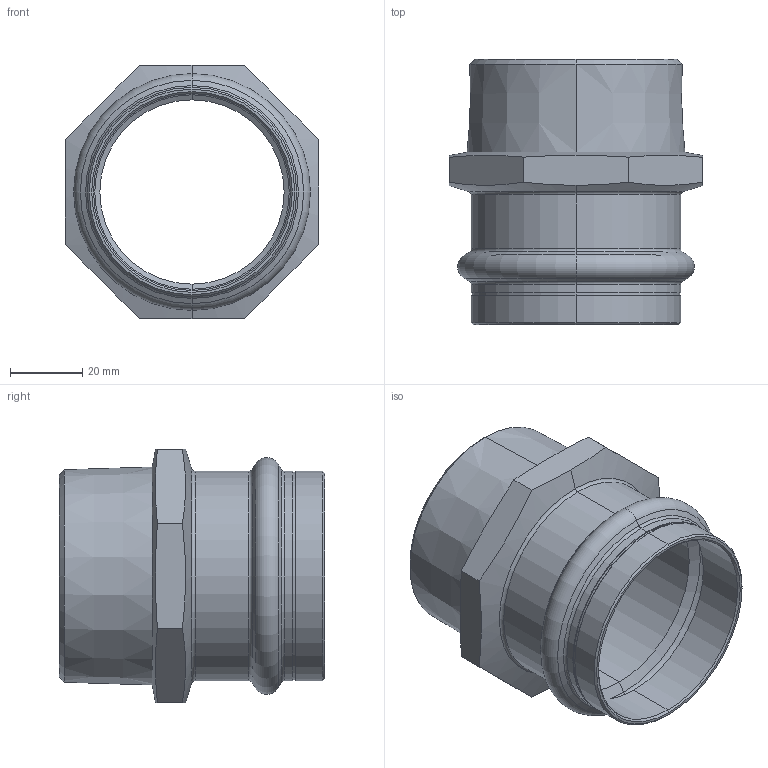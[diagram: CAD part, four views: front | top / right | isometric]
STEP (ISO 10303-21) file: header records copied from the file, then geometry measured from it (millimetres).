
FILE_DESCRIPTION (( 'STEP AP203' ), '1' );
FILE_NAME ('SP4243G Ø54 2.STEP', '2017-04-26T07:57:28', ( '' ), ( '' ), 'SwSTEP 2.0', 'SolidWorks 2016', '' );
FILE_SCHEMA (( 'CONFIG_CONTROL_DESIGN' ));
Length unit declared in the file: millimetre
Products named in the file (1): SP4243G ﾘ54 2
Bounding box: 70 x 73.29 x 70 mm (x, y, z)
Volume: 49173.7 mm3; surface area: 30855.8 mm2
Topology: 1 solids, 1 shells, 63 faces, 136 edges, 78 vertices
Faces by surface type: cone 24, cylinder 16, plane 13, torus 10
Entity records: 1851 total; most frequent: CARTESIAN_POINT 394, DIRECTION 312, ORIENTED_EDGE 272, EDGE_CURVE 136, AXIS2_PLACEMENT_3D 132, VERTEX_POINT 78, CIRCLE 68, EDGE_LOOP 68
